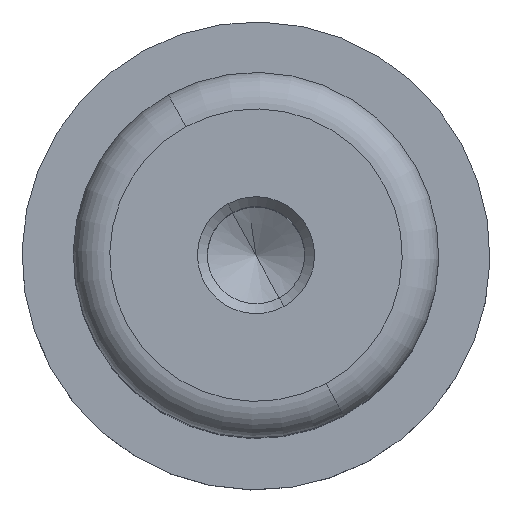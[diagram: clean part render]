
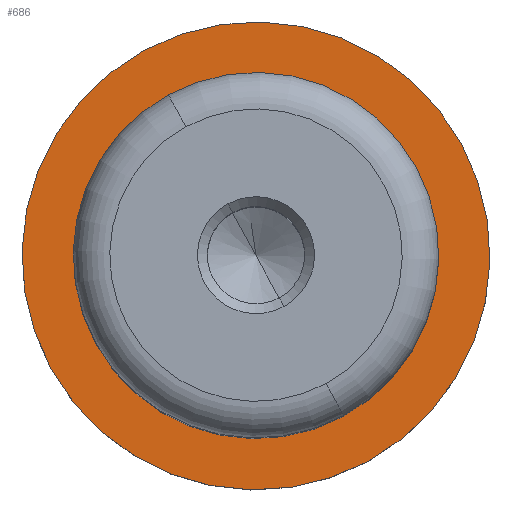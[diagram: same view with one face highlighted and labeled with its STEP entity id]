
A CAD part, top view. The second image highlights one B-rep face of the part: STEP entity #686.
In plain terms, the highlighted planar face has unit normal (0, 0, 1).
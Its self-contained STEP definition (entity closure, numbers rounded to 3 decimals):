
#324=AXIS2_PLACEMENT_3D('Circle Axis2P3D',#322,#323,$) ;
#359=AXIS2_PLACEMENT_3D('Circle Axis2P3D',#357,#358,$) ;
#392=AXIS2_PLACEMENT_3D('Circle Axis2P3D',#390,#391,$) ;
#416=AXIS2_PLACEMENT_3D('Circle Axis2P3D',#414,#415,$) ;
#676=AXIS2_PLACEMENT_3D('Plane Axis2P3D',#673,#674,#675) ;
#322=CARTESIAN_POINT('Axis2P3D Location',(0.,0.,0.)) ;
#326=CARTESIAN_POINT('Vertex',(-7.671,14.041,0.)) ;
#328=CARTESIAN_POINT('Vertex',(7.671,-14.041,0.)) ;
#357=CARTESIAN_POINT('Axis2P3D Location',(0.,0.,0.)) ;
#387=CARTESIAN_POINT('Vertex',(-5.513,10.092,0.)) ;
#390=CARTESIAN_POINT('Axis2P3D Location',(0.,0.,0.)) ;
#394=CARTESIAN_POINT('Vertex',(5.513,-10.092,0.)) ;
#414=CARTESIAN_POINT('Axis2P3D Location',(0.,0.,0.)) ;
#673=CARTESIAN_POINT('Axis2P3D Location',(0.,11.5,0.)) ;
#323=DIRECTION('Axis2P3D Direction',(0.,0.,1.)) ;
#358=DIRECTION('Axis2P3D Direction',(0.,0.,1.)) ;
#391=DIRECTION('Axis2P3D Direction',(0.,0.,1.)) ;
#415=DIRECTION('Axis2P3D Direction',(0.,0.,1.)) ;
#674=DIRECTION('Axis2P3D Direction',(0.,0.,1.)) ;
#675=DIRECTION('Axis2P3D XDirection',(1.,0.,0.)) ;
#679=ORIENTED_EDGE('',*,*,#361,.T.) ;
#680=ORIENTED_EDGE('',*,*,#330,.T.) ;
#683=ORIENTED_EDGE('',*,*,#396,.F.) ;
#684=ORIENTED_EDGE('',*,*,#418,.F.) ;
#685=FACE_BOUND('',#682,.T.) ;
#686=ADVANCED_FACE('PartBody',(#681,#685),#677,.T.) ;
#325=CIRCLE('generated circle',#324,16.) ;
#360=CIRCLE('generated circle',#359,16.) ;
#393=CIRCLE('generated circle',#392,11.5) ;
#417=CIRCLE('generated circle',#416,11.5) ;
#330=EDGE_CURVE('',#327,#329,#325,.T.) ;
#361=EDGE_CURVE('',#329,#327,#360,.T.) ;
#396=EDGE_CURVE('',#388,#395,#393,.T.) ;
#418=EDGE_CURVE('',#395,#388,#417,.T.) ;
#678=EDGE_LOOP('',(#679,#680)) ;
#682=EDGE_LOOP('',(#683,#684)) ;
#681=FACE_OUTER_BOUND('',#678,.T.) ;
#677=PLANE('',#676) ;
#327=VERTEX_POINT('',#326) ;
#329=VERTEX_POINT('',#328) ;
#388=VERTEX_POINT('',#387) ;
#395=VERTEX_POINT('',#394) ;
